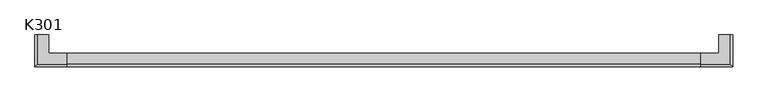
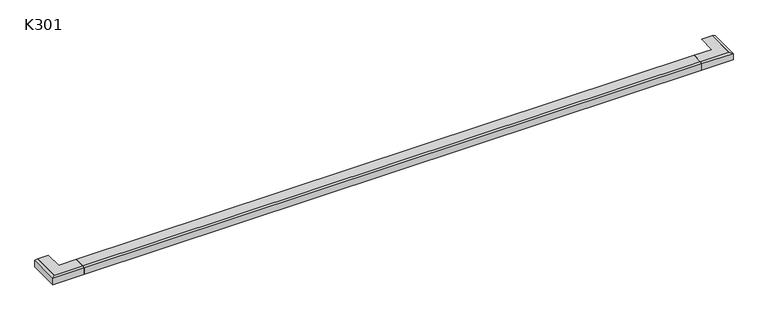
"""IFC4 building model written with IfcOpenShell, lengths in millimetres: proxy geometry, K301 Profil okapowy prosty : K301."""

from ifc_helpers import new_model, si_unit, frame, origin, place, context, project, spatial, polyline, outline, extrude, faceted_brep, source, transform, mapped, element, save


def k301_e0689195(model_context):
    return source(origin(), model_context, "Body", "SolidModel", [
        faceted_brep([(4790.0, -21.5, -6.0), (4790.0, -1.5, 0.0), (4790.0, 78.5, 0.0), (4790.0, 77.0164314, -1.5004157), (4790.0, 0.0, -1.5004157), (4790.0, 0.0, -4.5), (4790.0, -1.5, -4.5), (4790.0, -1.5, -1.566046), (4790.0, -20.0, -7.116046), (4790.0, -20.0, -55.4735048), (4790.0, -21.5, -56.0), (5021.5, 210.0, -6.0), (5021.5, 210.0, -56.0), (5020.0, 210.0, -55.4735048), (5020.0, 210.0, -7.116046), (5001.5, 210.0, -1.566046), (5001.5, 210.0, -4.5), (5000.0, 210.0, -4.5), (5000.0, 210.0, -1.5004157), (4922.9835686, 210.0, -1.5004157), (4921.5, 210.0, 0.0), (5001.5, 210.0, 0.0), (5020.0, -20.0, -55.4735048), (5021.5, -21.5, -56.0), (5020.0, -20.0, -7.116046), (5001.5, -1.5, -1.566046), (5001.5, -1.5, -4.5), (5000.0, 0.0, -4.5), (4922.9835686, 77.0164314, -1.5004157), (5000.0, 0.0, -1.5004157), (4921.5, 78.5, 0.0), (5001.5, -1.5, 0.0), (5021.5, -21.5, -6.0)], [[[0, 1, 2, 3, 4, 5, 6, 7, 8, 9, 10]], [[11, 12, 13, 14, 15, 16, 17, 18, 19, 20, 21]], [[9, 22, 23, 10]], [[8, 24, 22, 9]], [[7, 25, 24, 8]], [[6, 26, 25, 7]], [[5, 27, 17, 16, 26, 6]], [[3, 28, 19, 18, 29, 4]], [[2, 30, 28, 3]], [[1, 31, 21, 20, 30, 2]], [[0, 32, 31, 1]], [[22, 13, 12, 23]], [[10, 23, 32, 0]], [[23, 12, 11, 32]], [[24, 14, 13, 22]], [[25, 15, 14, 24]], [[26, 16, 15, 25]], [[30, 20, 19, 28]], [[32, 11, 21, 31]], [[4, 29, 27, 5]], [[29, 18, 17, 27]]]),
        faceted_brep([(210.0, -21.5, -6.0), (210.0, -21.5, -56.0), (210.0, -20.0, -55.4735048), (210.0, -20.0, -7.116046), (210.0, -1.5, -1.566046), (210.0, -1.5, -4.5), (210.0, 0.0, -4.5), (210.0, 0.0, -1.5004157), (210.0, 77.0164314, -1.5004157), (210.0, 78.5, 0.0), (210.0, -1.5, 0.0), (-21.5, 210.0, -6.0), (-1.5, 210.0, 0.0), (78.5, 210.0, 0.0), (77.0164314, 210.0, -1.5004157), (0.0, 210.0, -1.5004157), (0.0, 210.0, -4.5), (-1.5, 210.0, -4.5), (-1.5, 210.0, -1.566046), (-20.0, 210.0, -7.116046), (-20.0, 210.0, -55.4735048), (-21.5, 210.0, -56.0), (-21.5, -21.5, -56.0), (-20.0, -20.0, -55.4735048), (-20.0, -20.0, -7.116046), (-1.5, -1.5, -1.566046), (-1.5, -1.5, -4.5), (0.0, 0.0, -4.5), (0.0, 0.0, -1.5004157), (77.0164314, 77.0164314, -1.5004157), (78.5, 78.5, 0.0), (-1.5, -1.5, 0.0), (-21.5, -21.5, -6.0)], [[[0, 1, 2, 3, 4, 5, 6, 7, 8, 9, 10]], [[11, 12, 13, 14, 15, 16, 17, 18, 19, 20, 21]], [[2, 1, 22, 23]], [[3, 2, 23, 24]], [[4, 3, 24, 25]], [[5, 4, 25, 26]], [[6, 5, 26, 17, 16, 27]], [[8, 7, 28, 15, 14, 29]], [[9, 8, 29, 30]], [[10, 9, 30, 13, 12, 31]], [[0, 10, 31, 32]], [[23, 22, 21, 20]], [[1, 0, 32, 22]], [[22, 32, 11, 21]], [[24, 23, 20, 19]], [[25, 24, 19, 18]], [[26, 25, 18, 17]], [[30, 29, 14, 13]], [[32, 31, 12, 11]], [[7, 6, 27, 28]], [[28, 27, 16, 15]]]),
        extrude(outline(polyline([(-21.5, -6.0), (-1.5, 0.0), (78.5, 0.0), (77.0164314, -1.5004157), (0.0, -1.5004157), (0.0, -4.5), (-1.5, -4.5), (-1.5, -1.566046), (-20.0, -7.116046), (-20.0, -55.4735048), (-21.5, -56.0), (-21.5, -6.0)])), frame((210.0, 0.0, 0.0), z_axis=(1.0, 0.0, 0.0), x_axis=(0.0, 1.0, 0.0)), (0.0, 0.0, 1.0), 4580.0),
    ])


if __name__ == "__main__":
    model = new_model("IFC4")
    model_context = context("Model", 3, world=origin())
    ifc_project = project(units=[si_unit("LENGTHUNIT", "METRE", prefix="MILLI")], contexts=[model_context])
    site = spatial("IfcSite", under=ifc_project)
    building = spatial("IfcBuilding", under=site)
    placement = place(None, origin())
    k301_shape = k301_e0689195(model_context)
    element("IfcBuildingElementProxy", 1, Name="K301 Profil okapowy prosty : K301", ObjectType="K301 Profil okapowy prosty : K301", at=placement, inside=building, context=model_context, shape_type="MappedRepresentation", body=[
        mapped(k301_shape, transform((0.0, 0.0, 0.0), x_axis=(1.0, 0.0, 0.0), y_axis=(0.0, 1.0, 0.0), z_axis=(0.0, 0.0, 1.0))),
    ])
    save(model, "model.ifc")
